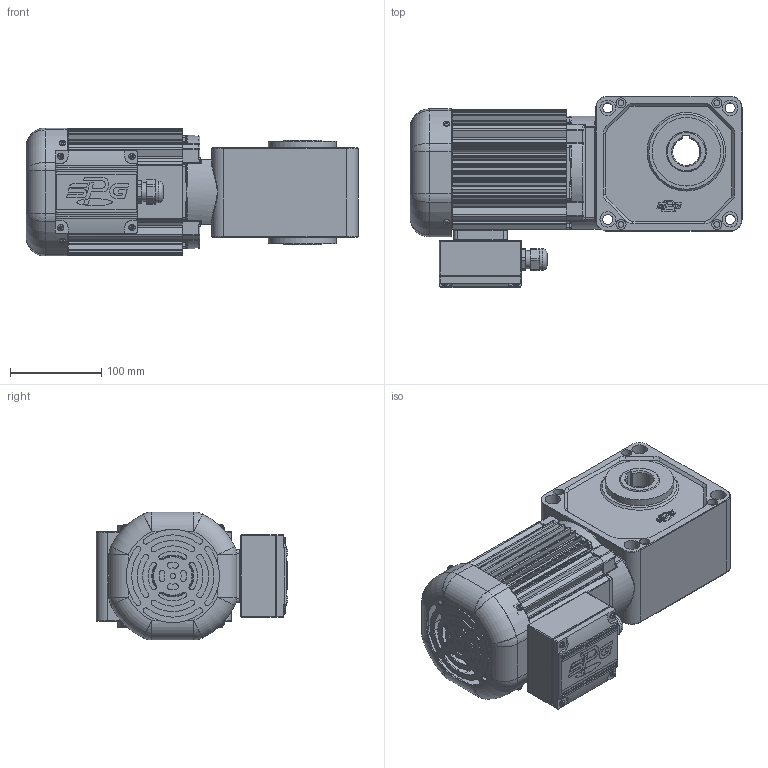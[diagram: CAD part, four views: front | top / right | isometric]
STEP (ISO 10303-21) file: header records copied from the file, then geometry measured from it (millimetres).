
FILE_DESCRIPTION(/* description */ (''),/* implementation_level */ '2;1');
FILE_NAME(/* name */ 'Z:\동력 3D 파일\PCH30_0.4kW_3D.stp',/* time_stamp */ '2021-11-09T09:45:29+09:00',/* author */ ('jaebok'),/* organization */ (''),/* preprocessor_version */ 'ST-DEVELOPER v18.1',/* originating_system */ 'Autodesk Inventor 2022',/* authorisation */ '');
FILE_SCHEMA (('AUTOMOTIVE_DESIGN { 1 0 10303 214 3 1 1 }'));
Products named in the file (1): 부품23
Bounding box: 363.5 x 210 x 140 mm (x, y, z)
Volume: 2156095.7 mm3; surface area: 585680.8 mm2
Topology: 1 solids, 26 shells, 2005 faces, 5190 edges, 3275 vertices
Faces by surface type: plane 859, cylinder 745, torus 169, bspline 106, cone 94, sphere 32
Full cylindrical faces by diameter (mm): 3.242 x5, 3.25 x1, 3.5 x4, 3.6 x4, 4 x21, 5 x13, 5.386 x4, 6 x9, 6.5 x4, 7 x12, 8 x1, 10 x1, 11 x8, 12.5 x1, 15 x1, 17 x12, 18 x1, 20 x2, 21 x1, 23.6 x1, 25 x1, 30 x1, 31 x1, 40 x1, 44 x5, 45 x2, 50 x1, 65 x2, 73 x2, 75 x2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
Entity records: 67196 total; most frequent: CARTESIAN_POINT 15642, DIRECTION 10704, ORIENTED_EDGE 10276, EDGE_CURVE 5138, AXIS2_PLACEMENT_3D 4129, VERTEX_POINT 3275, LINE 2446, VECTOR 2446
